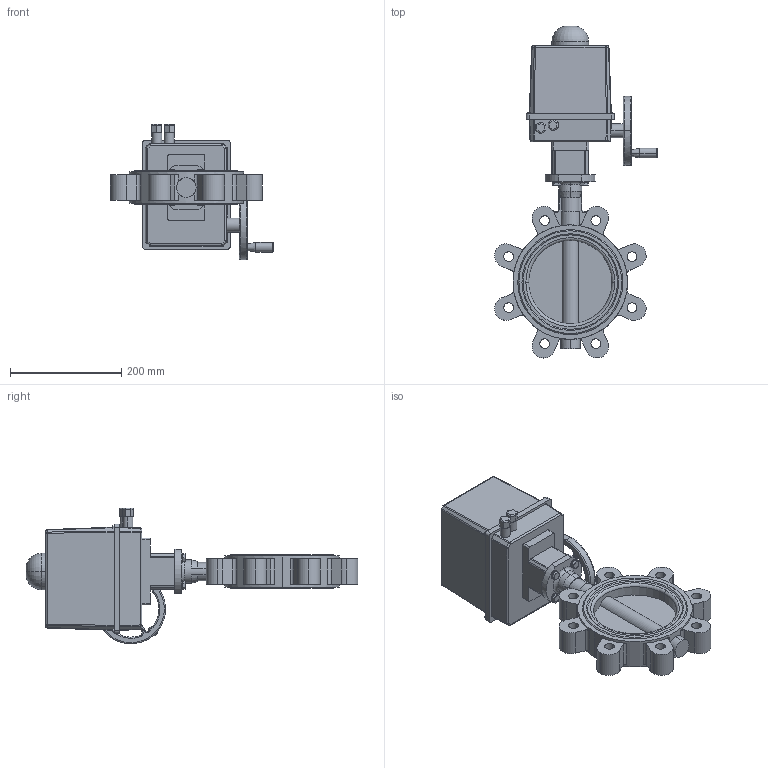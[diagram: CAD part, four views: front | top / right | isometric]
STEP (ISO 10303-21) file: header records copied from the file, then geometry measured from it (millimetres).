
FILE_DESCRIPTION (( 'STEP AP214' ), '1' );
FILE_NAME ('67665.step', '2020-10-26T06:44:39', ( '' ), ( '' ), 'SwSTEP 2.0', 'SolidWorks 2019', '' );
FILE_SCHEMA (( 'AUTOMOTIVE_DESIGN' ));
Length unit declared in the file: millimetre
Products named in the file (6): PSQ 103_PSQ 103-36-24VDC-F07; U-Scheibe DIN 125 A_M8; 6kt-Schr DIN 933_M8x25; TL20-0150_M01; 67665; Steckkupplung PSQ 103_PSQ 103 VK-14
Assembly tree (11 placements, depth 2):
  67665
    TL20-0150_M01
    PSQ 103_PSQ 103-36-24VDC-F07
    Steckkupplung PSQ 103_PSQ 103 VK-14
    6kt-Schr DIN 933_M8x25  x4
    U-Scheibe DIN 125 A_M8  x4
Bounding box: 293.48 x 597.48 x 244 mm (x, y, z)
Volume: 6914697.9 mm3; surface area: 465579.6 mm2
Topology: 11 solids, 11 shells, 845 faces, 2169 edges, 1350 vertices
Faces by surface type: cylinder 361, plane 338, cone 64, torus 60, sphere 16, bspline 6
Entity records: 27495 total; most frequent: CARTESIAN_POINT 5102, DIRECTION 4153, ORIENTED_EDGE 3858, EDGE_CURVE 1929, AXIS2_PLACEMENT_3D 1569, VERTEX_POINT 1230, VECTOR 1015, LINE 1015
